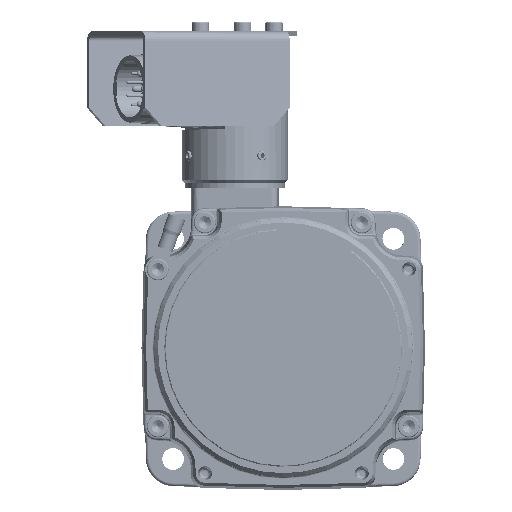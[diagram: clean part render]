
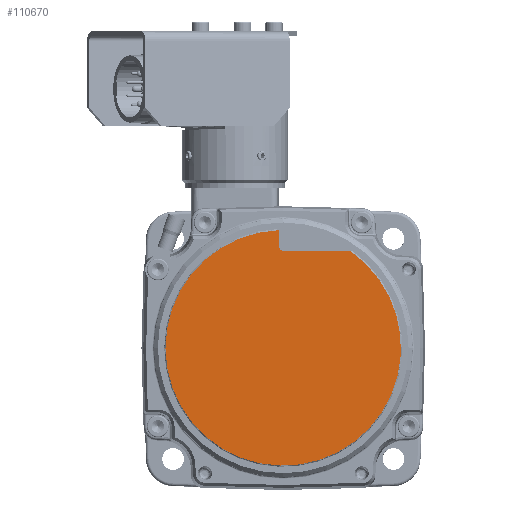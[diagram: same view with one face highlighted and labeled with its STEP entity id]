
A CAD part, top view. The second image highlights one B-rep face of the part: STEP entity #110670.
In plain terms, the highlighted planar face has unit normal (0, 0, 1).
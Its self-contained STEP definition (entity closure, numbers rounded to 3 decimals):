
#103014=CARTESIAN_POINT('',(-1.5,37.77,60.3));
#103016=CARTESIAN_POINT('',(0.,0.,60.3));
#103017=DIRECTION('',(0.,0.,-1.));
#103018=DIRECTION('',(0.572,0.82,0.));
#103019=AXIS2_PLACEMENT_3D('',#103016,#103017,#103018);
#103042=CARTESIAN_POINT('',(0.5,33.,60.3));
#103043=DIRECTION('',(0.,0.,-1.));
#103044=DIRECTION('',(0.,-1.,0.));
#103045=AXIS2_PLACEMENT_3D('',#103042,#103043,#103044);
#103064=DIRECTION('',(0.,-1.,0.));
#103065=VECTOR('',#103064,4.77);
#103066=CARTESIAN_POINT('',(-1.5,37.77,60.3));
#103067=LINE('',#103066,#103065);
#103068=DIRECTION('',(1.,0.,0.));
#103069=VECTOR('',#103068,21.13);
#103070=CARTESIAN_POINT('',(0.5,31.,60.3));
#103071=LINE('',#103070,#103069);
#103537=CARTESIAN_POINT('',(0.5,31.,60.3));
#103539=VERTEX_POINT('',#103537);
#103541=CARTESIAN_POINT('',(-1.5,33.,60.3));
#103543=VERTEX_POINT('',#103541);
#103557=VERTEX_POINT('',#103014);
#103558=CARTESIAN_POINT('',(21.63,31.,60.3));
#103559=VERTEX_POINT('',#103558);
#110659=CARTESIAN_POINT('',(0.,0.,60.3));
#110660=DIRECTION('',(0.,0.,1.));
#110661=DIRECTION('',(1.,0.,0.));
#110662=AXIS2_PLACEMENT_3D('',#110659,#110660,#110661);
#110663=PLANE('',#110662);
#110664=ORIENTED_EDGE('',*,*,#110607,.T.);
#110665=ORIENTED_EDGE('',*,*,#110625,.T.);
#110666=ORIENTED_EDGE('',*,*,#110637,.F.);
#110667=ORIENTED_EDGE('',*,*,#110650,.T.);
#110668=EDGE_LOOP('',(#110664,#110665,#110666,#110667));
#110669=FACE_OUTER_BOUND('',#110668,.F.);
#110670=ADVANCED_FACE('',(#110669),#110663,.T.);
#103020=CIRCLE('',#103019,37.8);
#103046=CIRCLE('',#103045,2.);
#110607=EDGE_CURVE('',#103559,#103557,#103020,.T.);
#110625=EDGE_CURVE('',#103557,#103543,#103067,.T.);
#110637=EDGE_CURVE('',#103539,#103543,#103046,.T.);
#110650=EDGE_CURVE('',#103539,#103559,#103071,.T.);
